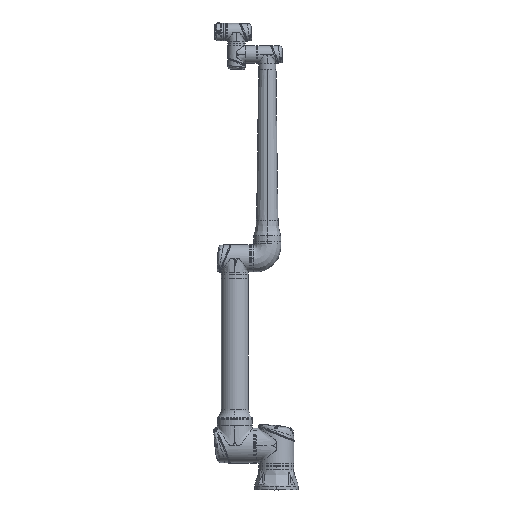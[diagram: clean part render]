
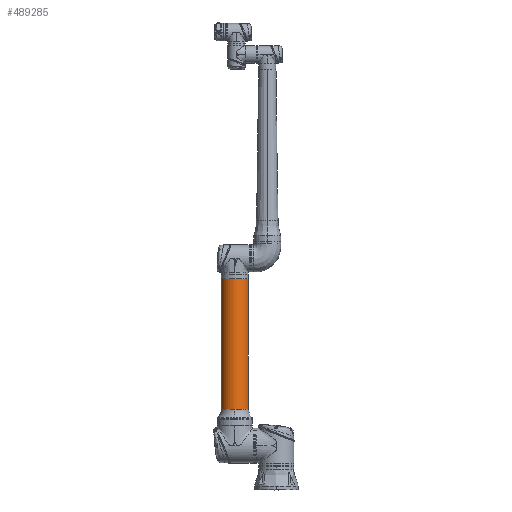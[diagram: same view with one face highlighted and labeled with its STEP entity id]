
A CAD part, top view. The second image highlights one B-rep face of the part: STEP entity #489285.
In plain terms, the highlighted cylindrical face has radius 59 mm (diameter 118 mm), a partial arc.
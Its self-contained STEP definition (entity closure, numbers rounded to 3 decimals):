
#19125 = AXIS2_PLACEMENT_3D ( 'NONE', #173848, #578999, #533796 ) ;
#27731 = VERTEX_POINT ( 'NONE', #336717 ) ;
#29165 = EDGE_LOOP ( 'NONE', ( #383665, #413273, #509793, #497417, #411183 ) ) ;
#32837 = CARTESIAN_POINT ( 'NONE',  ( 726.8, 0., -59. ) ) ;
#44150 = CARTESIAN_POINT ( 'NONE',  ( 562.7, 0., -59. ) ) ;
#58406 = CIRCLE ( 'NONE', #228419, 59. ) ;
#62873 = CARTESIAN_POINT ( 'NONE',  ( 562.7, 0., 59. ) ) ;
#138083 = DIRECTION ( 'NONE',  ( 1., 0., 0. ) ) ;
#173848 = CARTESIAN_POINT ( 'NONE',  ( 158.463, 0., 0. ) ) ;
#177513 = CARTESIAN_POINT ( 'NONE',  ( 726.8, 0., 59. ) ) ;
#204735 = VECTOR ( 'NONE', #449343, 1000. ) ;
#214906 = CARTESIAN_POINT ( 'NONE',  ( 562.7, 0., 0. ) ) ;
#215348 = VERTEX_POINT ( 'NONE', #177513 ) ;
#228419 = AXIS2_PLACEMENT_3D ( 'NONE', #391003, #442043, #263102 ) ;
#243860 = DIRECTION ( 'NONE',  ( 1., 0., 0. ) ) ;
#247279 = CARTESIAN_POINT ( 'NONE',  ( 158.463, 0., -59. ) ) ;
#249486 = VECTOR ( 'NONE', #243860, 1000. ) ;
#263102 = DIRECTION ( 'NONE',  ( 0., 1., 0. ) ) ;
#275804 = DIRECTION ( 'NONE',  ( 0., 0., -1. ) ) ;
#276885 = VERTEX_POINT ( 'NONE', #410272 ) ;
#277734 = LINE ( 'NONE', #62873, #249486 ) ;
#279684 = CARTESIAN_POINT ( 'NONE',  ( 726.8, 0., 0. ) ) ;
#293398 = CYLINDRICAL_SURFACE ( 'NONE', #381489, 59. ) ;
#318046 = VERTEX_POINT ( 'NONE', #32837 ) ;
#336717 = CARTESIAN_POINT ( 'NONE',  ( 158.463, 0., 59. ) ) ;
#338557 = LINE ( 'NONE', #44150, #204735 ) ;
#356736 = FACE_OUTER_BOUND ( 'NONE', #29165, .T. ) ;
#381489 = AXIS2_PLACEMENT_3D ( 'NONE', #214906, #574813, #531535 ) ;
#383665 = ORIENTED_EDGE ( 'NONE', *, *, #412221, .T. ) ;
#391003 = CARTESIAN_POINT ( 'NONE',  ( 158.463, 0., 0. ) ) ;
#392013 = CIRCLE ( 'NONE', #19125, 59. ) ;
#410272 = CARTESIAN_POINT ( 'NONE',  ( 158.463, 59., 0. ) ) ;
#411183 = ORIENTED_EDGE ( 'NONE', *, *, #523173, .F. ) ;
#412221 = EDGE_CURVE ( 'NONE', #456353, #276885, #392013, .T. ) ;
#413273 = ORIENTED_EDGE ( 'NONE', *, *, #425072, .T. ) ;
#425072 = EDGE_CURVE ( 'NONE', #276885, #27731, #58406, .T. ) ;
#442043 = DIRECTION ( 'NONE',  ( 1., 0., 0. ) ) ;
#449343 = DIRECTION ( 'NONE',  ( 1., 0., 0. ) ) ;
#456353 = VERTEX_POINT ( 'NONE', #247279 ) ;
#463020 = EDGE_CURVE ( 'NONE', #27731, #215348, #277734, .T. ) ;
#481088 = EDGE_CURVE ( 'NONE', #318046, #215348, #534955, .T. ) ;
#489285 = ADVANCED_FACE ( 'NONE', ( #356736 ), #293398, .T. ) ;
#497417 = ORIENTED_EDGE ( 'NONE', *, *, #481088, .F. ) ;
#509793 = ORIENTED_EDGE ( 'NONE', *, *, #463020, .T. ) ;
#523173 = EDGE_CURVE ( 'NONE', #456353, #318046, #338557, .T. ) ;
#531535 = DIRECTION ( 'NONE',  ( 0., 0., -1. ) ) ;
#533796 = DIRECTION ( 'NONE',  ( 0., 1., 0. ) ) ;
#534955 = CIRCLE ( 'NONE', #538723, 59. ) ;
#538723 = AXIS2_PLACEMENT_3D ( 'NONE', #279684, #138083, #275804 ) ;
#574813 = DIRECTION ( 'NONE',  ( 1., 0., 0. ) ) ;
#578999 = DIRECTION ( 'NONE',  ( 1., 0., 0. ) ) ;
